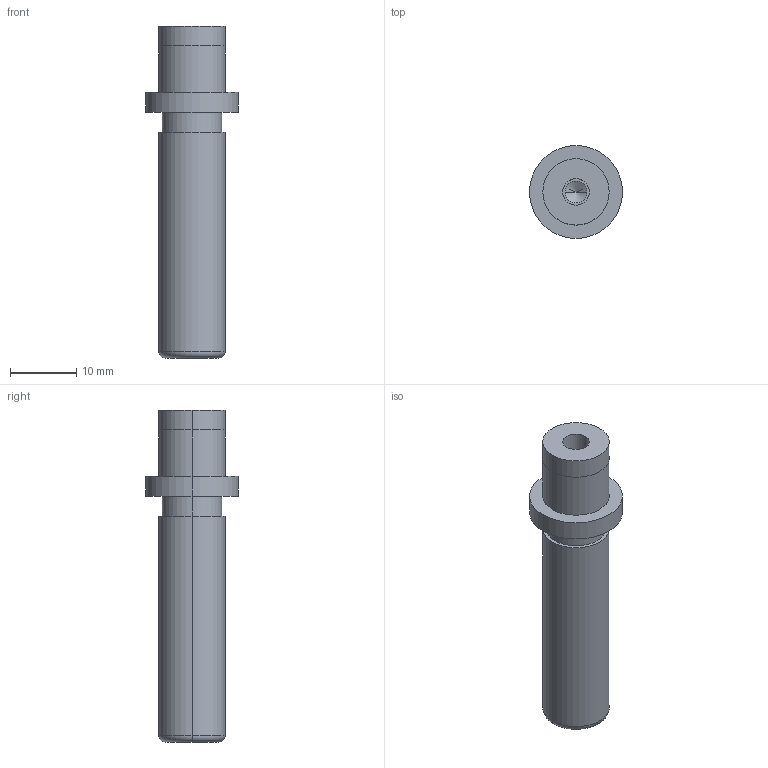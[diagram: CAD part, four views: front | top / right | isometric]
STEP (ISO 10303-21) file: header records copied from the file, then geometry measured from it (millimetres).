
FILE_DESCRIPTION(/* description */ (''),/* implementation_level */ '2;1');
FILE_NAME(/* name */ '3d_sgpw10-40_05290_r00.stp',/* time_stamp */ '2011-01-10T14:11:06+09:00',/* author */ ('MISUMI'),/* organization */ (''),/* preprocessor_version */ 'ST-DEVELOPER v11',/* originating_system */ 'UGS - NX 5.0',/* authorisation */ '');
FILE_SCHEMA (('CONFIG_CONTROL_DESIGN'));
Length unit declared in the file: millimetre
Products named in the file (1): 3d_sgpw10-40_05290_r00
Bounding box: 14 x 14 x 50 mm (x, y, z)
Volume: 3811 mm3; surface area: 2218.3 mm2
Topology: 1 solids, 1 shells, 31 faces, 64 edges, 38 vertices
Faces by surface type: cylinder 18, plane 7, cone 4, torus 2
Entity records: 890 total; most frequent: DIRECTION 162, CARTESIAN_POINT 130, ORIENTED_EDGE 120, AXIS2_PLACEMENT_3D 70, EDGE_CURVE 60, EDGE_LOOP 38, CIRCLE 38, VERTEX_POINT 38
